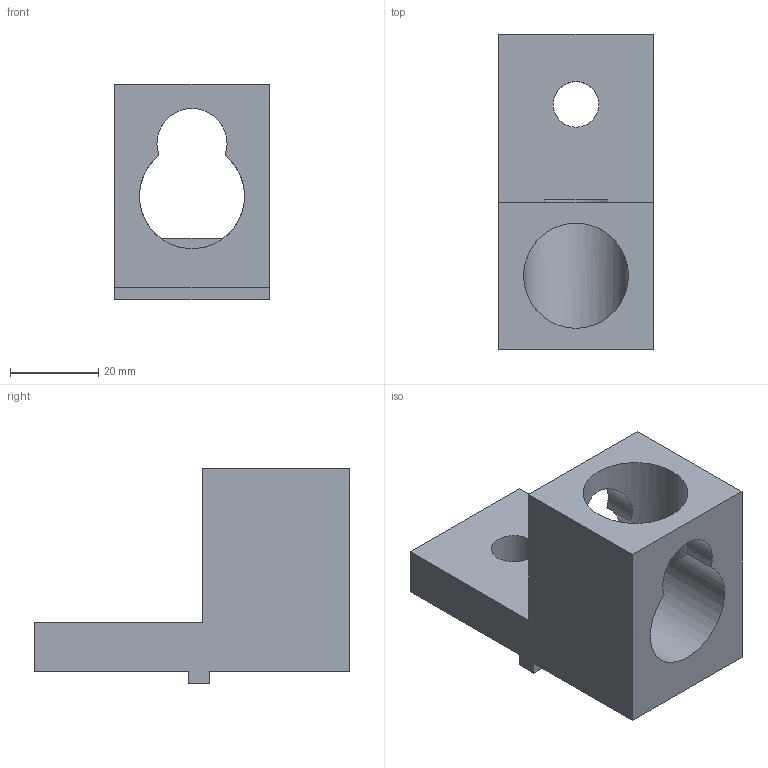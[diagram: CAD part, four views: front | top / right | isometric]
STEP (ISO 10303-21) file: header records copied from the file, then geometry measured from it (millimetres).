
FILE_DESCRIPTION(/* description */ (''),/* implementation_level */ '2;1');
FILE_NAME(/* name */ 'Lug CMC LA630-R.stp',/* time_stamp */ '2012-05-31T10:44:46+02:00',/* author */ (''),/* organization */ (''),/* preprocessor_version */ 'ST-DEVELOPER v11',/* originating_system */ 'SIEMENS PLM Software NX 7.5',/* authorisation */ '');
FILE_SCHEMA (('CONFIG_CONTROL_DESIGN'));
Length unit declared in the file: millimetre
Products named in the file (1): 011975_A
Bounding box: 34.93 x 71.45 x 48.82 mm (x, y, z)
Volume: 45053.1 mm3; surface area: 14247.4 mm2
Topology: 1 solids, 1 shells, 18 faces, 54 edges, 36 vertices
Faces by surface type: plane 13, cylinder 5
Full cylindrical faces by diameter (mm): 10.31 x1, 23.8 x1
Entity records: 754 total; most frequent: CARTESIAN_POINT 181, ORIENTED_EDGE 102, DIRECTION 94, EDGE_CURVE 51, LINE 38, VECTOR 38, VERTEX_POINT 35, AXIS2_PLACEMENT_3D 28
